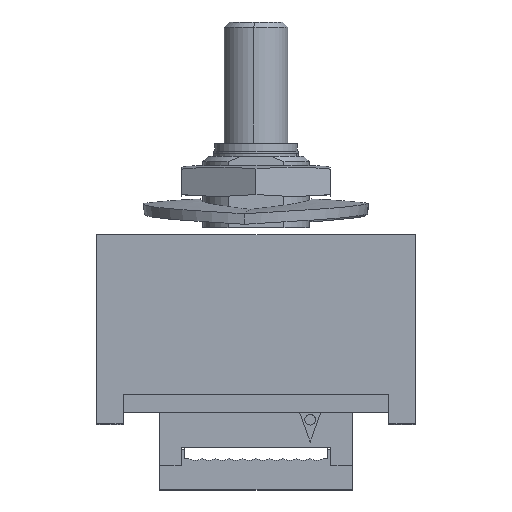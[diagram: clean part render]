
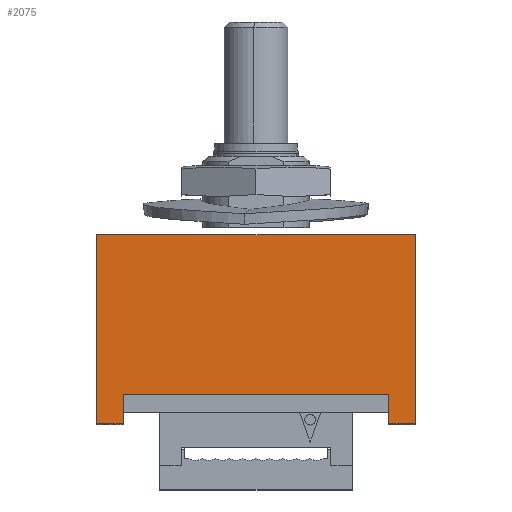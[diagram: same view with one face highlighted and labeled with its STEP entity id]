
A CAD part, top view. The second image highlights one B-rep face of the part: STEP entity #2075.
In plain terms, the highlighted planar face has unit normal (0, 0, 1).
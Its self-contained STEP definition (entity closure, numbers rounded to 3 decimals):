
#149 = VECTOR ( 'NONE', #4954, 1000. ) ;
#164 = VERTEX_POINT ( 'NONE', #798 ) ;
#168 = DIRECTION ( 'NONE',  ( 0., 0., 1. ) ) ;
#247 = AXIS2_PLACEMENT_3D ( 'NONE', #2889, #168, #2867 ) ;
#276 = VECTOR ( 'NONE', #3357, 1000. ) ;
#347 = CARTESIAN_POINT ( 'NONE',  ( -12.5, -16., 15. ) ) ;
#467 = ORIENTED_EDGE ( 'NONE', *, *, #2524, .F. ) ;
#668 = CARTESIAN_POINT ( 'NONE',  ( 12.5, -13.2, 15. ) ) ;
#727 = CARTESIAN_POINT ( 'NONE',  ( -12.5, -19.536, 15. ) ) ;
#778 = ORIENTED_EDGE ( 'NONE', *, *, #868, .T. ) ;
#798 = CARTESIAN_POINT ( 'NONE',  ( -12.5, -13.2, 15. ) ) ;
#868 = EDGE_CURVE ( 'NONE', #1341, #164, #2662, .T. ) ;
#1089 = CARTESIAN_POINT ( 'NONE',  ( -15., 0., 15. ) ) ;
#1291 = FACE_OUTER_BOUND ( 'NONE', #4168, .T. ) ;
#1341 = VERTEX_POINT ( 'NONE', #2352 ) ;
#1343 = VECTOR ( 'NONE', #1939, 1000. ) ;
#1394 = VECTOR ( 'NONE', #2198, 1000. ) ;
#1502 = DIRECTION ( 'NONE',  ( 0., 1., 0. ) ) ;
#1545 = LINE ( 'NONE', #3821, #1394 ) ;
#1552 = ORIENTED_EDGE ( 'NONE', *, *, #4101, .T. ) ;
#1681 = VERTEX_POINT ( 'NONE', #2424 ) ;
#1939 = DIRECTION ( 'NONE',  ( 0., 1., 0. ) ) ;
#1967 = VERTEX_POINT ( 'NONE', #3747 ) ;
#2075 = ADVANCED_FACE ( 'NONE', ( #1291 ), #2508, .T. ) ;
#2198 = DIRECTION ( 'NONE',  ( 0., 1., 0. ) ) ;
#2335 = DIRECTION ( 'NONE',  ( -1., 0., 0. ) ) ;
#2352 = CARTESIAN_POINT ( 'NONE',  ( -12.5, -16., 15. ) ) ;
#2412 = CARTESIAN_POINT ( 'NONE',  ( 15., -16., 15. ) ) ;
#2424 = CARTESIAN_POINT ( 'NONE',  ( -15., 1.8, 15. ) ) ;
#2508 = PLANE ( 'NONE',  #247 ) ;
#2524 = EDGE_CURVE ( 'NONE', #1341, #4055, #4226, .T. ) ;
#2549 = CARTESIAN_POINT ( 'NONE',  ( -15., 1.8, 15. ) ) ;
#2580 = LINE ( 'NONE', #4161, #2980 ) ;
#2662 = LINE ( 'NONE', #727, #3596 ) ;
#2716 = EDGE_CURVE ( 'NONE', #2733, #164, #2580, .T. ) ;
#2733 = VERTEX_POINT ( 'NONE', #668 ) ;
#2739 = ORIENTED_EDGE ( 'NONE', *, *, #3230, .F. ) ;
#2794 = EDGE_CURVE ( 'NONE', #3853, #3765, #3787, .T. ) ;
#2867 = DIRECTION ( 'NONE',  ( 1., 0., 0. ) ) ;
#2888 = LINE ( 'NONE', #3081, #4247 ) ;
#2889 = CARTESIAN_POINT ( 'NONE',  ( -15., 0., 15. ) ) ;
#2918 = ORIENTED_EDGE ( 'NONE', *, *, #3023, .F. ) ;
#2980 = VECTOR ( 'NONE', #4902, 1000. ) ;
#3008 = CARTESIAN_POINT ( 'NONE',  ( 15., -16., 15. ) ) ;
#3023 = EDGE_CURVE ( 'NONE', #1681, #1967, #3667, .T. ) ;
#3081 = CARTESIAN_POINT ( 'NONE',  ( 12.5, -19.536, 15. ) ) ;
#3138 = EDGE_CURVE ( 'NONE', #3765, #2733, #2888, .T. ) ;
#3230 = EDGE_CURVE ( 'NONE', #4055, #1681, #4998, .T. ) ;
#3357 = DIRECTION ( 'NONE',  ( 1., 0., 0. ) ) ;
#3417 = ORIENTED_EDGE ( 'NONE', *, *, #3138, .F. ) ;
#3466 = ORIENTED_EDGE ( 'NONE', *, *, #2716, .F. ) ;
#3596 = VECTOR ( 'NONE', #4660, 1000. ) ;
#3667 = LINE ( 'NONE', #2549, #276 ) ;
#3747 = CARTESIAN_POINT ( 'NONE',  ( 15., 1.8, 15. ) ) ;
#3765 = VERTEX_POINT ( 'NONE', #4936 ) ;
#3787 = LINE ( 'NONE', #3008, #149 ) ;
#3821 = CARTESIAN_POINT ( 'NONE',  ( 15., 0., 15. ) ) ;
#3853 = VERTEX_POINT ( 'NONE', #2412 ) ;
#4055 = VERTEX_POINT ( 'NONE', #4602 ) ;
#4101 = EDGE_CURVE ( 'NONE', #3853, #1967, #1545, .T. ) ;
#4161 = CARTESIAN_POINT ( 'NONE',  ( -15., -13.2, 15. ) ) ;
#4168 = EDGE_LOOP ( 'NONE', ( #2739, #467, #778, #3466, #3417, #4929, #1552, #2918 ) ) ;
#4226 = LINE ( 'NONE', #347, #4437 ) ;
#4247 = VECTOR ( 'NONE', #1502, 1000. ) ;
#4437 = VECTOR ( 'NONE', #2335, 1000. ) ;
#4602 = CARTESIAN_POINT ( 'NONE',  ( -15., -16., 15. ) ) ;
#4660 = DIRECTION ( 'NONE',  ( 0., 1., 0. ) ) ;
#4902 = DIRECTION ( 'NONE',  ( -1., 0., 0. ) ) ;
#4929 = ORIENTED_EDGE ( 'NONE', *, *, #2794, .F. ) ;
#4936 = CARTESIAN_POINT ( 'NONE',  ( 12.5, -16., 15. ) ) ;
#4954 = DIRECTION ( 'NONE',  ( -1., 0., 0. ) ) ;
#4998 = LINE ( 'NONE', #1089, #1343 ) ;
